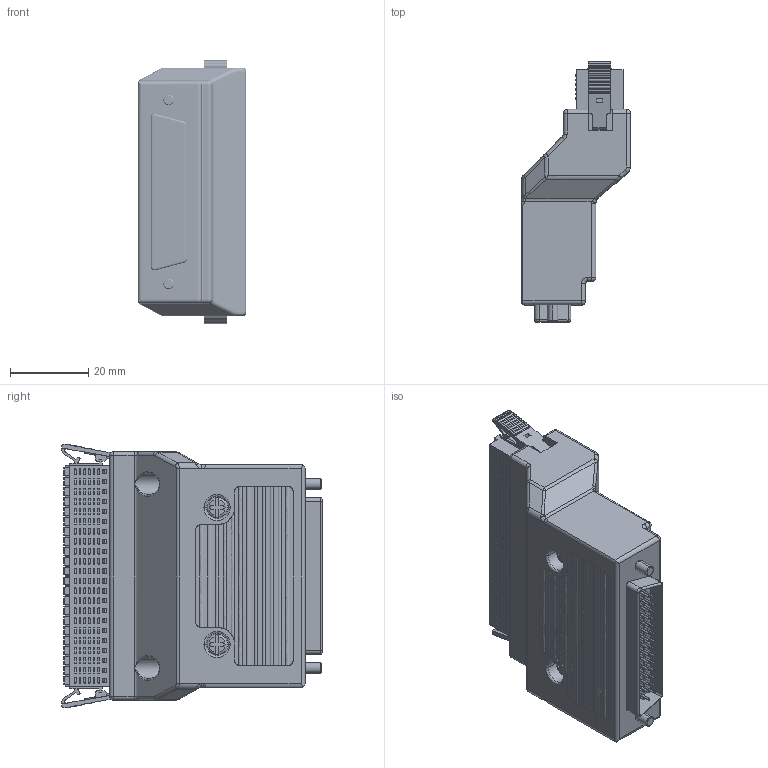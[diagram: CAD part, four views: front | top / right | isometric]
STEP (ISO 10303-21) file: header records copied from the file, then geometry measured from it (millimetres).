
FILE_DESCRIPTION((''),'2;1');
FILE_NAME('0156-44_ASM','2024-04-29T',('Minghe.Zhang'),(''),'CREO PARAMETRIC BY PTC INC, 2016260','CREO PARAMETRIC BY PTC INC, 2016260','');
FILE_SCHEMA(('CONFIG_CONTROL_DESIGN'));
Products named in the file (3): DINKLE_A015-A280; DINKLE_0156-1C-5571--44; 0156-44_ASM
Assembly tree (2 placements, depth 2):
  0156-44_ASM
    DINKLE_A015-A280
    DINKLE_0156-1C-5571--44
Bounding box: 27.85 x 66.5 x 67.44 mm (x, y, z)
Volume: 63942.5 mm3; surface area: 22111.7 mm2
Topology: 2 solids, 2 shells, 7007 faces, 18143 edges, 11784 vertices
Faces by surface type: plane 4646, cylinder 1519, revolution 528, cone 180, torus 85, bspline 29, extrusion 12, sphere 8
Entity records: 252723 total; most frequent: CARTESIAN_POINT 67568, ORIENTED_EDGE 36286, DIRECTION 33125, EDGE_CURVE 18143, VECTOR 12507, LINE 12495, VERTEX_POINT 11784, AXIS2_PLACEMENT_3D 10045
